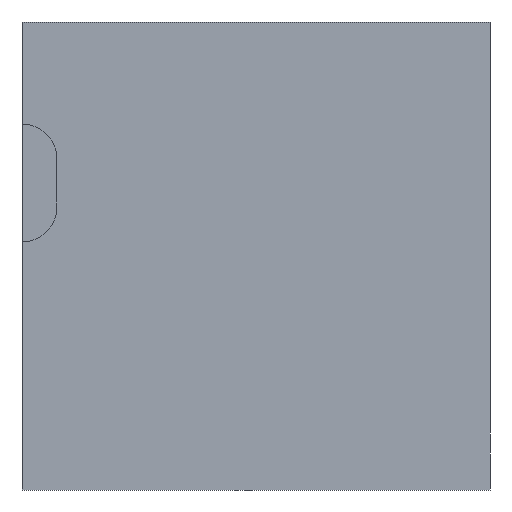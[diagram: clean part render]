
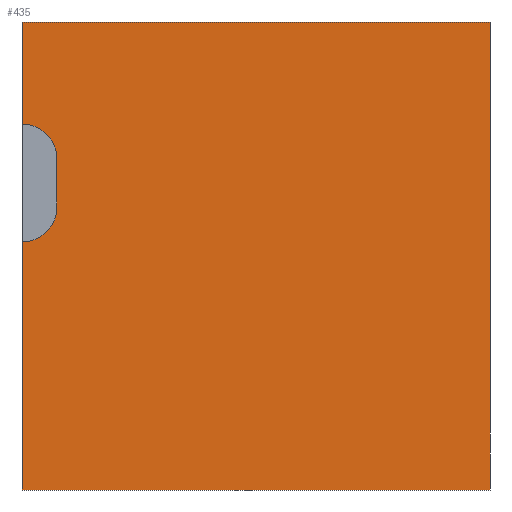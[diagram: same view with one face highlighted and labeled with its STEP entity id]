
A CAD part, left-side view. The second image highlights one B-rep face of the part: STEP entity #435.
In plain terms, the highlighted planar face has unit normal (-1, 0, 0).
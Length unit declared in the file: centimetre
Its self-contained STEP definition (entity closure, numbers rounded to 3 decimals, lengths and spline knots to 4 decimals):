
#6 = VERTEX_POINT ( 'NONE', #211 ) ;
#9 = CARTESIAN_POINT ( 'NONE',  ( 0., 1000., 1000. ) ) ;
#10 = ORIENTED_EDGE ( 'NONE', *, *, #291, .F. ) ;
#18 = VECTOR ( 'NONE', #463, 100. ) ;
#24 = ORIENTED_EDGE ( 'NONE', *, *, #389, .F. ) ;
#26 = DIRECTION ( 'NONE',  ( -1., 0., 0. ) ) ;
#32 = VERTEX_POINT ( 'NONE', #356 ) ;
#45 = ORIENTED_EDGE ( 'NONE', *, *, #409, .T. ) ;
#49 = AXIS2_PLACEMENT_3D ( 'NONE', #310, #460, #431 ) ;
#60 = AXIS2_PLACEMENT_3D ( 'NONE', #71, #215, #246 ) ;
#63 = DIRECTION ( 'NONE',  ( 0., 0., -1. ) ) ;
#71 = CARTESIAN_POINT ( 'NONE',  ( 0., 1000., 604.6743 ) ) ;
#79 = AXIS2_PLACEMENT_3D ( 'NONE', #202, #26, #108 ) ;
#80 = EDGE_CURVE ( 'NONE', #276, #32, #394, .T. ) ;
#85 = CARTESIAN_POINT ( 'NONE',  ( 0., 0., 1000. ) ) ;
#87 = CIRCLE ( 'NONE', #60, 74.6526 ) ;
#96 = CARTESIAN_POINT ( 'NONE',  ( 0., 1000., 530.0217 ) ) ;
#104 = CARTESIAN_POINT ( 'NONE',  ( 0., 1000., 782.1839 ) ) ;
#108 = DIRECTION ( 'NONE',  ( 0., 0., 1. ) ) ;
#113 = FACE_OUTER_BOUND ( 'NONE', #130, .T. ) ;
#125 = LINE ( 'NONE', #9, #371 ) ;
#130 = EDGE_LOOP ( 'NONE', ( #10, #265, #373, #298, #385, #24, #45, #304 ) ) ;
#137 = LINE ( 'NONE', #387, #18 ) ;
#149 = CARTESIAN_POINT ( 'NONE',  ( 0., 925.3474, 604.6743 ) ) ;
#157 = VERTEX_POINT ( 'NONE', #149 ) ;
#174 = DIRECTION ( 'NONE',  ( 0., -1., 0. ) ) ;
#180 = EDGE_CURVE ( 'NONE', #226, #32, #442, .T. ) ;
#181 = CARTESIAN_POINT ( 'NONE',  ( 0., 1000., 1000. ) ) ;
#187 = EDGE_CURVE ( 'NONE', #279, #276, #125, .T. ) ;
#188 = DIRECTION ( 'NONE',  ( 0., 0., -1. ) ) ;
#192 = VECTOR ( 'NONE', #188, 100. ) ;
#202 = CARTESIAN_POINT ( 'NONE',  ( 0., 1000., 707.5313 ) ) ;
#210 = CARTESIAN_POINT ( 'NONE',  ( 0., 925.3474, 604.6743 ) ) ;
#211 = CARTESIAN_POINT ( 'NONE',  ( 0., 925.3474, 707.5313 ) ) ;
#215 = DIRECTION ( 'NONE',  ( -1., 0., 0. ) ) ;
#226 = VERTEX_POINT ( 'NONE', #303 ) ;
#246 = DIRECTION ( 'NONE',  ( 0., 0., 1. ) ) ;
#265 = ORIENTED_EDGE ( 'NONE', *, *, #396, .F. ) ;
#276 = VERTEX_POINT ( 'NONE', #414 ) ;
#279 = VERTEX_POINT ( 'NONE', #96 ) ;
#280 = DIRECTION ( 'NONE',  ( 0., 0., 1. ) ) ;
#285 = VECTOR ( 'NONE', #174, 100. ) ;
#291 = EDGE_CURVE ( 'NONE', #157, #6, #305, .T. ) ;
#298 = ORIENTED_EDGE ( 'NONE', *, *, #80, .T. ) ;
#303 = CARTESIAN_POINT ( 'NONE',  ( 0., 0., 1000. ) ) ;
#304 = ORIENTED_EDGE ( 'NONE', *, *, #377, .F. ) ;
#305 = LINE ( 'NONE', #210, #312 ) ;
#306 = VERTEX_POINT ( 'NONE', #104 ) ;
#310 = CARTESIAN_POINT ( 'NONE',  ( 0., 1000., 1000. ) ) ;
#312 = VECTOR ( 'NONE', #280, 100. ) ;
#314 = CIRCLE ( 'NONE', #79, 74.6526 ) ;
#318 = PLANE ( 'NONE',  #49 ) ;
#356 = CARTESIAN_POINT ( 'NONE',  ( 0., 0., 0. ) ) ;
#371 = VECTOR ( 'NONE', #407, 100. ) ;
#373 = ORIENTED_EDGE ( 'NONE', *, *, #187, .T. ) ;
#377 = EDGE_CURVE ( 'NONE', #6, #306, #314, .T. ) ;
#385 = ORIENTED_EDGE ( 'NONE', *, *, #180, .F. ) ;
#387 = CARTESIAN_POINT ( 'NONE',  ( 0., 1000., 1000. ) ) ;
#389 = EDGE_CURVE ( 'NONE', #441, #226, #137, .T. ) ;
#390 = CARTESIAN_POINT ( 'NONE',  ( 0., 1000., 1000. ) ) ;
#394 = LINE ( 'NONE', #436, #285 ) ;
#396 = EDGE_CURVE ( 'NONE', #279, #157, #87, .T. ) ;
#400 = VECTOR ( 'NONE', #63, 100. ) ;
#407 = DIRECTION ( 'NONE',  ( 0., 0., -1. ) ) ;
#409 = EDGE_CURVE ( 'NONE', #441, #306, #429, .T. ) ;
#414 = CARTESIAN_POINT ( 'NONE',  ( 0., 1000., 0. ) ) ;
#429 = LINE ( 'NONE', #390, #400 ) ;
#431 = DIRECTION ( 'NONE',  ( 0., 0., -1. ) ) ;
#435 = ADVANCED_FACE ( 'NONE', ( #113 ), #318, .F. ) ;
#436 = CARTESIAN_POINT ( 'NONE',  ( 0., 1000., 0. ) ) ;
#441 = VERTEX_POINT ( 'NONE', #181 ) ;
#442 = LINE ( 'NONE', #85, #192 ) ;
#460 = DIRECTION ( 'NONE',  ( 1., 0., 0. ) ) ;
#463 = DIRECTION ( 'NONE',  ( 0., -1., 0. ) ) ;
